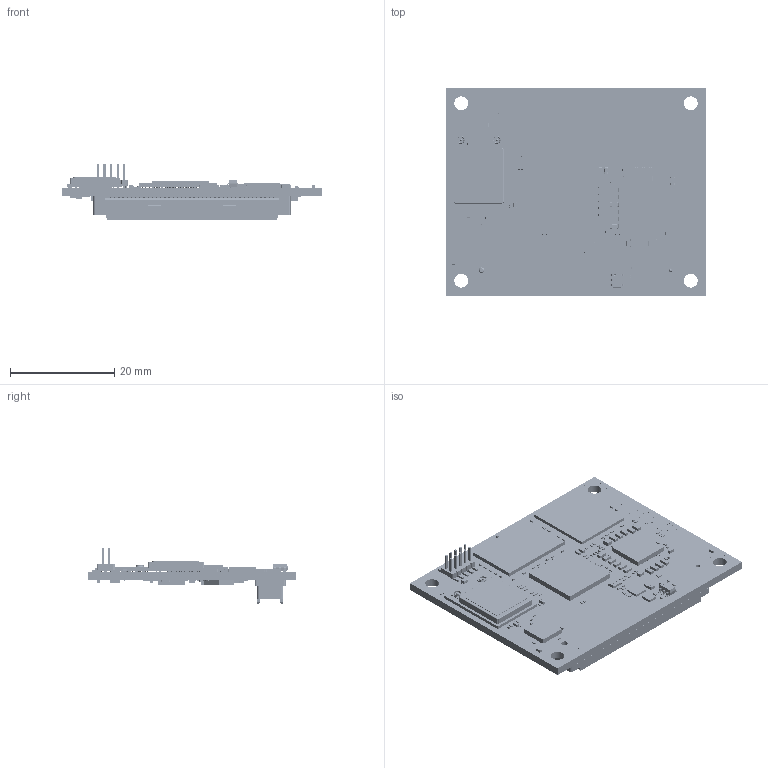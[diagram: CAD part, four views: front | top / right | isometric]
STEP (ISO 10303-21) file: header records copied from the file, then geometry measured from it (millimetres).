
FILE_DESCRIPTION(('STEP AP214'),'1');
FILE_NAME('PicoCOM93_REV100.step','2025-10-09T12:00:02',(' '),(' '),'Spatial InterOp 3D',' ',' ');
FILE_SCHEMA(('AUTOMOTIVE_DESIGN { 1 0 10303 214 1 1 1 1 }'));
Length unit declared in the file: millimetre
Products named in the file (254): Shapes; SOLDERMASK_TOP; Dielectric; SOLDERMASK_BOTTOM; PicoCOM93_REV100.brd; Symbols; FS_BGA153_0P5_11P5X13; FS_BGA200_0P65_10X15; FS_BGA306_0P5_11X11; FS_C0201; FS_C04502; FS_C0603; FS_DFN2626-10_2P6X2P6; FS_FIDUCIAL_100; FS_J_0P8_80POS_5177986-3; FS_J_1P0_04POS_PICOCOM_BOOTSEL; FS_J_1P27_10POS_5X2_VER_SMD; FS_L0402; FS_L0603; FS_MLF4_0P65_1P2X1P2; FS_MOD_UB-MAYA_W26X; FS_QFN12_0P4_2P1X1P8; FS_QFN20_0P4_3X3; FS_QFN20_0P5_4X4; FS_QFN32_0P5_5X5; FS_QFN56_0P4_7X7; FS_R0201; FS_R0402; FS_SM_FS-LOGO_3X3; FS_SOD523; FS_SOT23-5; FS_UFDFN6_0P5_1P45X1; FS_WLCSP4_0P4_0P8X0P8; FS_XTAL_2-2P05X1P2; FS_XTAL_4-2X1P6
Assembly tree (253 placements, depth 3):
  PicoCOM93_REV100.brd
    Shapes
      SOLDERMASK_TOP
      Dielectric
      SOLDERMASK_BOTTOM
    Symbols
      FS_BGA153_0P5_11P5X13
      FS_BGA200_0P65_10X15
      FS_BGA306_0P5_11X11
      FS_C0201
      FS_C0201
      FS_C0201
      FS_C0201
      FS_C0201
      FS_C0201
      FS_C0201
      FS_C0201
      FS_C0201
      FS_C0201
      FS_C0201
      FS_C0201
      FS_C0201
      FS_C0201
      FS_C0201
      FS_C0201
      FS_C0201
      FS_C0201
      FS_C0201
      FS_C0201
      FS_C0201
      FS_C0201
      FS_C0201
      FS_C0201
      FS_C0201
      FS_C0201
      FS_C0201
      FS_C0201
      FS_C0201
      FS_C0201
      FS_C0201
      FS_C0201
      FS_C0201
      FS_C0201
      FS_C0201
      FS_C0201
      FS_C0201
      FS_C0201
      FS_C0201
      FS_C0201
      FS_C0201
      FS_C0201
      FS_C0201
      FS_C0201
      FS_C0201
      FS_C0201
      FS_C0201
      FS_C0201
      FS_C0201
      FS_C0201
      FS_C0201
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Bounding box: 50 x 40 x 10.64 mm (x, y, z)
Volume: 4256.1 mm3; surface area: 15349.6 mm2
Topology: 1060 solids, 1076 shells, 24085 faces, 62361 edges, 38772 vertices
Faces by surface type: plane 15942, cylinder 5797, sphere 2230, bspline 68, cone 44, torus 4
Entity records: 884028 total; most frequent: CARTESIAN_POINT 127006, DIRECTION 122241, ORIENTED_EDGE 120218, EDGE_CURVE 60135, LINE 45415, VECTOR 45415, VERTEX_POINT 38772, AXIS2_PLACEMENT_3D 38413
